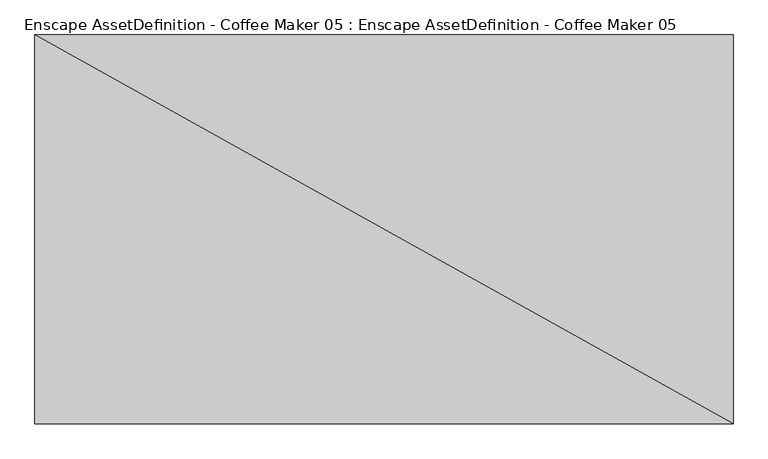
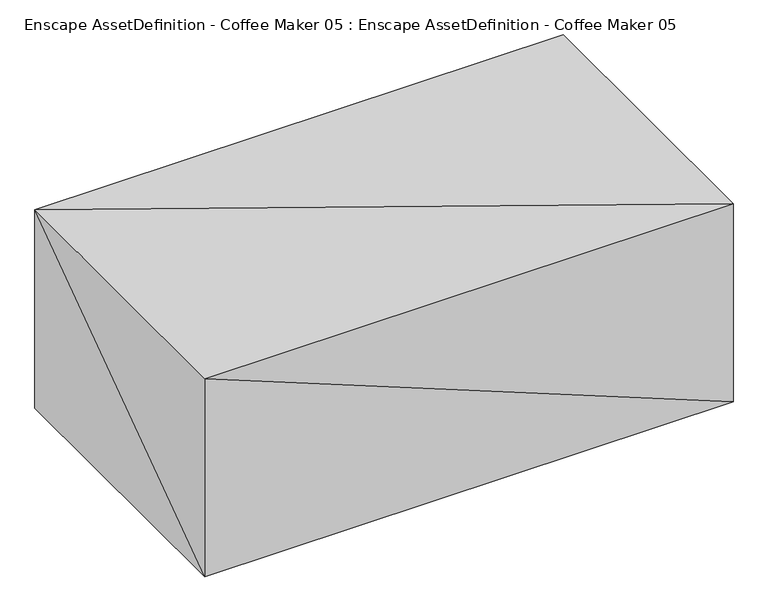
"""IFC4 building model written with IfcOpenShell, lengths in millimetres: geographic element geometry, Enscape AssetDefinition - Coffee Maker 05 : Enscape AssetDefinition - Coffee Maker 05."""

from ifc_helpers import new_model, si_unit, origin, place, context, project, spatial, faceted_brep, source, transform, mapped, element, save


def enscape_assetdefinition_coffee_maker_05_enscape_f8d00087(model_context):
    return source(origin(), model_context, "Body", "Brep", [
        faceted_brep([(-560.0000024, 230.0300002, 442.8640008), (-560.0000024, -391.6670084, 442.8640008), (555.9999943, -391.6670084, 442.8640008), (555.9999943, 230.0300002, 442.8640008), (-560.0000024, -391.6670084, 0.0), (-560.0000024, 230.0300002, 0.0), (555.9999943, -391.6670084, 0.0), (555.9999943, 230.0300002, 0.0)], [[[0, 1, 2]], [[0, 2, 3]], [[4, 1, 0]], [[4, 0, 5]], [[6, 2, 1]], [[6, 1, 4]], [[7, 3, 2]], [[7, 2, 6]], [[5, 0, 3]], [[5, 3, 7]], [[6, 4, 5]], [[7, 6, 5]]]),
    ])


if __name__ == "__main__":
    model = new_model("IFC4")
    model_context = context("Model", 3, world=origin())
    ifc_project = project(units=[si_unit("LENGTHUNIT", "METRE", prefix="MILLI")], contexts=[model_context])
    site = spatial("IfcSite", under=ifc_project)
    building = spatial("IfcBuilding", under=site)
    placement = place(None, origin())
    enscape_assetdefinition_coffee_maker_05_enscape_shape = enscape_assetdefinition_coffee_maker_05_enscape_f8d00087(model_context)
    element("IfcGeographicElement", 1, ObjectType="Enscape AssetDefinition - Coffee Maker 05 : Enscape AssetDefinition - Coffee Maker 05", at=placement, inside=building, context=model_context, shape_type="MappedRepresentation", body=[
        mapped(enscape_assetdefinition_coffee_maker_05_enscape_shape, transform((0.0, 0.0, 0.0), x_axis=(1.0, 0.0, 0.0), y_axis=(0.0, 1.0, 0.0), z_axis=(0.0, 0.0, 1.0))),
    ])
    save(model, "model.ifc")
